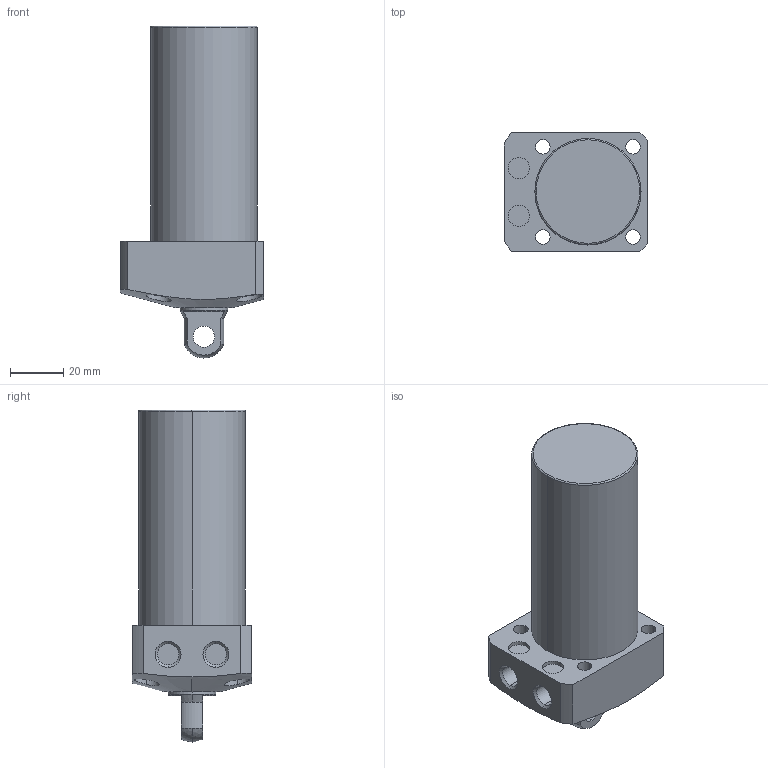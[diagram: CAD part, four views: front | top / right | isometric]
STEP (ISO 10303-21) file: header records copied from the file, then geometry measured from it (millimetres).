
FILE_DESCRIPTION (( 'STEP AP203' ), '1' );
FILE_NAME ('CLL040-CP-055.STEP', '2017-05-17T07:58:15', ( '' ), ( '' ), 'SwSTEP 2.0', 'SolidWorks 2015', '' );
FILE_SCHEMA (( 'CONFIG_CONTROL_DESIGN' ));
Length unit declared in the file: millimetre
Products named in the file (1): CLL040-CP-055
Bounding box: 54 x 45 x 125 mm (x, y, z)
Volume: 153042.9 mm3; surface area: 22192.1 mm2
Topology: 1 solids, 1 shells, 68 faces, 159 edges, 103 vertices
Faces by surface type: cylinder 35, plane 21, cone 8, sphere 2, torus 2
Entity records: 2372 total; most frequent: CARTESIAN_POINT 675, DIRECTION 357, ORIENTED_EDGE 318, EDGE_CURVE 159, AXIS2_PLACEMENT_3D 149, VERTEX_POINT 103, EDGE_LOOP 88, CIRCLE 80
